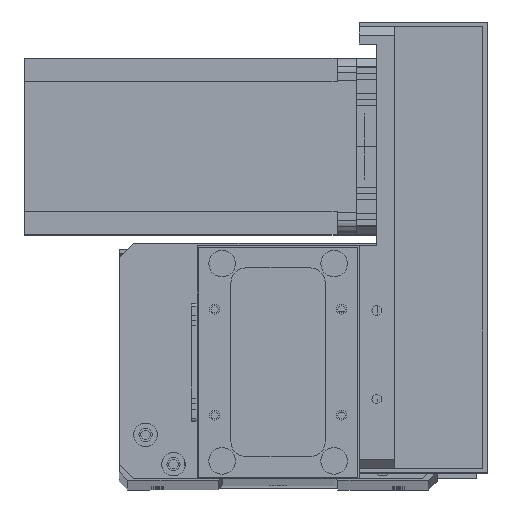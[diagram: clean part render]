
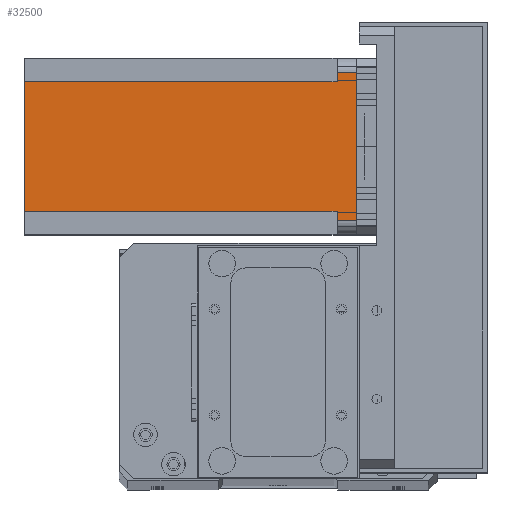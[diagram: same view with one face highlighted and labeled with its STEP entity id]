
A CAD part, top view. The second image highlights one B-rep face of the part: STEP entity #32500.
In plain terms, the highlighted planar face has unit normal (0, 0, 1) as drawn and (0, 1, 0) by its records, which use the part's own axes.
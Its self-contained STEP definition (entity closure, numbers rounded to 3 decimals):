
#481 = EDGE_CURVE ( 'NONE', #7376, #7557, #29442, .T. ) ;
#1181 = VECTOR ( 'NONE', #9995, 1000. ) ;
#1301 = LINE ( 'NONE', #6828, #20509 ) ;
#1673 = ORIENTED_EDGE ( 'NONE', *, *, #21868, .F. ) ;
#2092 = AXIS2_PLACEMENT_3D ( 'NONE', #13924, #31475, #16476 ) ;
#2669 = DIRECTION ( 'NONE',  ( -1., 0., 0. ) ) ;
#2775 = VECTOR ( 'NONE', #8865, 1000. ) ;
#2816 = ORIENTED_EDGE ( 'NONE', *, *, #24983, .T. ) ;
#3844 = PLANE ( 'NONE',  #2092 ) ;
#4058 = ORIENTED_EDGE ( 'NONE', *, *, #30323, .T. ) ;
#4315 = ORIENTED_EDGE ( 'NONE', *, *, #8743, .T. ) ;
#5975 = VERTEX_POINT ( 'NONE', #19221 ) ;
#6581 = VERTEX_POINT ( 'NONE', #26614 ) ;
#6828 = CARTESIAN_POINT ( 'NONE',  ( 55., 60., -112.5 ) ) ;
#7376 = VERTEX_POINT ( 'NONE', #9755 ) ;
#7557 = VERTEX_POINT ( 'NONE', #15680 ) ;
#8156 = LINE ( 'NONE', #29921, #26632 ) ;
#8743 = EDGE_CURVE ( 'NONE', #5975, #11224, #1301, .T. ) ;
#8865 = DIRECTION ( 'NONE',  ( 0., 0., 1. ) ) ;
#9434 = EDGE_CURVE ( 'NONE', #7557, #11224, #17358, .T. ) ;
#9705 = CARTESIAN_POINT ( 'NONE',  ( 0., 60., -112.5 ) ) ;
#9755 = CARTESIAN_POINT ( 'NONE',  ( 52., 60., -112.5 ) ) ;
#9851 = DIRECTION ( 'NONE',  ( -1., 0., 0. ) ) ;
#9995 = DIRECTION ( 'NONE',  ( 0., 0., 1. ) ) ;
#10029 = DIRECTION ( 'NONE',  ( 0., 0., -1. ) ) ;
#11224 = VERTEX_POINT ( 'NONE', #24165 ) ;
#11770 = DIRECTION ( 'NONE',  ( 0., 0., -1. ) ) ;
#12137 = VERTEX_POINT ( 'NONE', #28458 ) ;
#12431 = CARTESIAN_POINT ( 'NONE',  ( 5., 60., 0. ) ) ;
#13612 = EDGE_LOOP ( 'NONE', ( #1673, #4315, #15469, #30191, #4058, #26252, #2816, #16749 ) ) ;
#13924 = CARTESIAN_POINT ( 'NONE',  ( 0., 60., -112.5 ) ) ;
#14171 = VECTOR ( 'NONE', #27268, 1000. ) ;
#15469 = ORIENTED_EDGE ( 'NONE', *, *, #9434, .F. ) ;
#15680 = CARTESIAN_POINT ( 'NONE',  ( 52., 60., -6.5 ) ) ;
#15738 = LINE ( 'NONE', #9705, #14171 ) ;
#16476 = DIRECTION ( 'NONE',  ( 0., 0., 1. ) ) ;
#16749 = ORIENTED_EDGE ( 'NONE', *, *, #31112, .T. ) ;
#17358 = LINE ( 'NONE', #27274, #29877 ) ;
#17494 = VECTOR ( 'NONE', #10029, 1000. ) ;
#17516 = CARTESIAN_POINT ( 'NONE',  ( 8., 60., -112.5 ) ) ;
#17623 = CARTESIAN_POINT ( 'NONE',  ( 5., 60., -6.5 ) ) ;
#18132 = VERTEX_POINT ( 'NONE', #17623 ) ;
#18260 = LINE ( 'NONE', #17516, #17494 ) ;
#18871 = CARTESIAN_POINT ( 'NONE',  ( 52., 60., -112.5 ) ) ;
#19221 = CARTESIAN_POINT ( 'NONE',  ( 55., 60., 0. ) ) ;
#20509 = VECTOR ( 'NONE', #11770, 1000. ) ;
#21809 = VERTEX_POINT ( 'NONE', #12431 ) ;
#21868 = EDGE_CURVE ( 'NONE', #5975, #21809, #28085, .T. ) ;
#22249 = DIRECTION ( 'NONE',  ( 1., 0., 0. ) ) ;
#22711 = CARTESIAN_POINT ( 'NONE',  ( 0., 60., 0. ) ) ;
#24165 = CARTESIAN_POINT ( 'NONE',  ( 55., 60., -6.5 ) ) ;
#24983 = EDGE_CURVE ( 'NONE', #12137, #18132, #8156, .T. ) ;
#26252 = ORIENTED_EDGE ( 'NONE', *, *, #27634, .F. ) ;
#26614 = CARTESIAN_POINT ( 'NONE',  ( 8., 60., -112.5 ) ) ;
#26632 = VECTOR ( 'NONE', #9851, 1000. ) ;
#27268 = DIRECTION ( 'NONE',  ( -1., 0., 0. ) ) ;
#27274 = CARTESIAN_POINT ( 'NONE',  ( 52., 60., -6.5 ) ) ;
#27310 = VECTOR ( 'NONE', #2669, 1000. ) ;
#27634 = EDGE_CURVE ( 'NONE', #12137, #6581, #18260, .T. ) ;
#27729 = FACE_OUTER_BOUND ( 'NONE', #13612, .T. ) ;
#28085 = LINE ( 'NONE', #22711, #27310 ) ;
#28458 = CARTESIAN_POINT ( 'NONE',  ( 8., 60., -6.5 ) ) ;
#28631 = LINE ( 'NONE', #30069, #1181 ) ;
#29442 = LINE ( 'NONE', #18871, #2775 ) ;
#29877 = VECTOR ( 'NONE', #22249, 1000. ) ;
#29921 = CARTESIAN_POINT ( 'NONE',  ( 8., 60., -6.5 ) ) ;
#30069 = CARTESIAN_POINT ( 'NONE',  ( 5., 60., -112.5 ) ) ;
#30191 = ORIENTED_EDGE ( 'NONE', *, *, #481, .F. ) ;
#30323 = EDGE_CURVE ( 'NONE', #7376, #6581, #15738, .T. ) ;
#31112 = EDGE_CURVE ( 'NONE', #18132, #21809, #28631, .T. ) ;
#31475 = DIRECTION ( 'NONE',  ( 0., 1., 0. ) ) ;
#32500 = ADVANCED_FACE ( 'NONE', ( #27729 ), #3844, .T. ) ;
